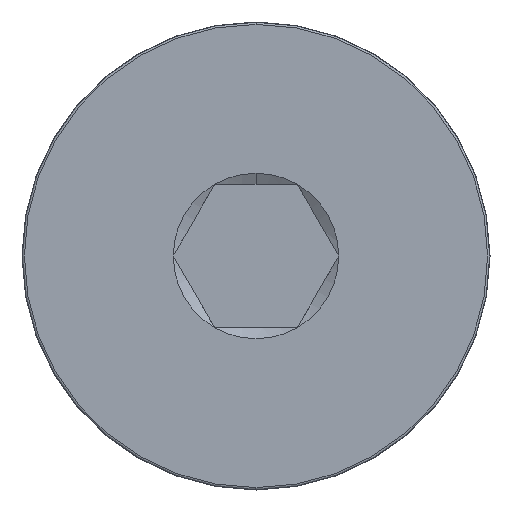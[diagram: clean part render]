
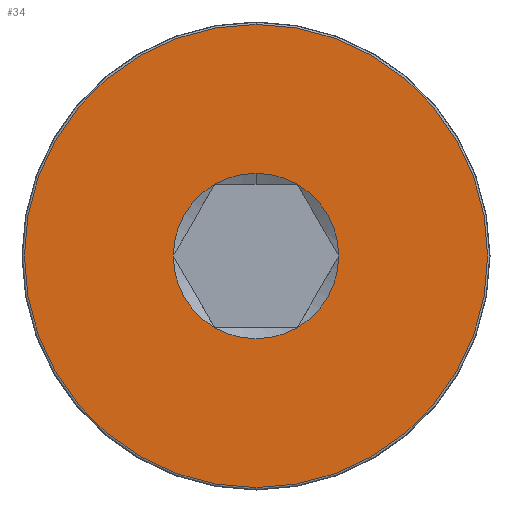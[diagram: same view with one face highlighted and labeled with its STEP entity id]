
A CAD part, left-side view. The second image highlights one B-rep face of the part: STEP entity #34.
In plain terms, the highlighted planar face has unit normal (-1, 0, 0).
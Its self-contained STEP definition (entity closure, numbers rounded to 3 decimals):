
#1 = CIRCLE ( 'NONE', #701, 1.732 ) ;
#8 = FACE_OUTER_BOUND ( 'NONE', #600, .T. ) ;
#20 = CIRCLE ( 'NONE', #119, 1.732 ) ;
#33 = ORIENTED_EDGE ( 'NONE', *, *, #755, .T. ) ;
#34 = ADVANCED_FACE ( 'NONE', ( #8, #128 ), #732, .T. ) ;
#46 = AXIS2_PLACEMENT_3D ( 'NONE', #270, #590, #658 ) ;
#47 = CARTESIAN_POINT ( 'NONE',  ( 0., 0., -4.85 ) ) ;
#52 = DIRECTION ( 'NONE',  ( 0., 0., -1. ) ) ;
#53 = DIRECTION ( 'NONE',  ( 1., 0., 0. ) ) ;
#55 = AXIS2_PLACEMENT_3D ( 'NONE', #446, #511, #260 ) ;
#73 = ORIENTED_EDGE ( 'NONE', *, *, #277, .T. ) ;
#74 = EDGE_CURVE ( 'NONE', #456, #327, #662, .T. ) ;
#76 = ORIENTED_EDGE ( 'NONE', *, *, #356, .T. ) ;
#77 = CARTESIAN_POINT ( 'NONE',  ( 0., 0.866, -1.5 ) ) ;
#93 = AXIS2_PLACEMENT_3D ( 'NONE', #291, #174, #242 ) ;
#99 = ORIENTED_EDGE ( 'NONE', *, *, #625, .T. ) ;
#102 = DIRECTION ( 'NONE',  ( 0., 0., -1. ) ) ;
#113 = EDGE_CURVE ( 'NONE', #149, #663, #416, .T. ) ;
#119 = AXIS2_PLACEMENT_3D ( 'NONE', #784, #471, #52 ) ;
#128 = FACE_BOUND ( 'NONE', #317, .T. ) ;
#149 = VERTEX_POINT ( 'NONE', #749 ) ;
#173 = CARTESIAN_POINT ( 'NONE',  ( 0., -0.866, 1.5 ) ) ;
#174 = DIRECTION ( 'NONE',  ( 1., 0., 0. ) ) ;
#178 = CARTESIAN_POINT ( 'NONE',  ( 0., 0., 0. ) ) ;
#236 = CARTESIAN_POINT ( 'NONE',  ( 0., 0., 0. ) ) ;
#238 = DIRECTION ( 'NONE',  ( -1., 0., 0. ) ) ;
#242 = DIRECTION ( 'NONE',  ( 0., 0., -1. ) ) ;
#254 = ORIENTED_EDGE ( 'NONE', *, *, #325, .T. ) ;
#260 = DIRECTION ( 'NONE',  ( 0., 0., -1. ) ) ;
#261 = CARTESIAN_POINT ( 'NONE',  ( 0., 0., 0. ) ) ;
#266 = ORIENTED_EDGE ( 'NONE', *, *, #113, .T. ) ;
#270 = CARTESIAN_POINT ( 'NONE',  ( 0., 0., 0. ) ) ;
#274 = DIRECTION ( 'NONE',  ( 1., 0., 0. ) ) ;
#277 = EDGE_CURVE ( 'NONE', #468, #558, #1, .T. ) ;
#281 = AXIS2_PLACEMENT_3D ( 'NONE', #236, #53, #617 ) ;
#283 = AXIS2_PLACEMENT_3D ( 'NONE', #178, #298, #437 ) ;
#289 = CARTESIAN_POINT ( 'NONE',  ( 0., 0., 0. ) ) ;
#291 = CARTESIAN_POINT ( 'NONE',  ( 0., 0., 0. ) ) ;
#297 = CARTESIAN_POINT ( 'NONE',  ( 0., 0., 4.85 ) ) ;
#298 = DIRECTION ( 'NONE',  ( -1., 0., 0. ) ) ;
#317 = EDGE_LOOP ( 'NONE', ( #99, #73, #33, #254, #76, #266, #715 ) ) ;
#325 = EDGE_CURVE ( 'NONE', #513, #389, #442, .T. ) ;
#327 = VERTEX_POINT ( 'NONE', #47 ) ;
#349 = CIRCLE ( 'NONE', #46, 1.732 ) ;
#356 = EDGE_CURVE ( 'NONE', #389, #149, #349, .T. ) ;
#360 = CIRCLE ( 'NONE', #414, 4.85 ) ;
#389 = VERTEX_POINT ( 'NONE', #781 ) ;
#396 = CARTESIAN_POINT ( 'NONE',  ( 0., 0., 0. ) ) ;
#414 = AXIS2_PLACEMENT_3D ( 'NONE', #670, #478, #661 ) ;
#416 = CIRCLE ( 'NONE', #93, 1.732 ) ;
#437 = DIRECTION ( 'NONE',  ( 0., 0., 1. ) ) ;
#442 = CIRCLE ( 'NONE', #650, 1.732 ) ;
#446 = CARTESIAN_POINT ( 'NONE',  ( 0., 0., 0. ) ) ;
#452 = VERTEX_POINT ( 'NONE', #538 ) ;
#456 = VERTEX_POINT ( 'NONE', #297 ) ;
#468 = VERTEX_POINT ( 'NONE', #485 ) ;
#471 = DIRECTION ( 'NONE',  ( 1., 0., 0. ) ) ;
#478 = DIRECTION ( 'NONE',  ( -1., 0., 0. ) ) ;
#485 = CARTESIAN_POINT ( 'NONE',  ( 0., 0.866, 1.5 ) ) ;
#493 = CIRCLE ( 'NONE', #281, 1.732 ) ;
#505 = EDGE_CURVE ( 'NONE', #663, #452, #493, .T. ) ;
#509 = DIRECTION ( 'NONE',  ( 1., 0., 0. ) ) ;
#511 = DIRECTION ( 'NONE',  ( 1., 0., 0. ) ) ;
#513 = VERTEX_POINT ( 'NONE', #173 ) ;
#538 = CARTESIAN_POINT ( 'NONE',  ( 0., 1.732, 0. ) ) ;
#543 = DIRECTION ( 'NONE',  ( 0., 0., 1. ) ) ;
#558 = VERTEX_POINT ( 'NONE', #735 ) ;
#576 = EDGE_CURVE ( 'NONE', #327, #456, #360, .T. ) ;
#588 = ORIENTED_EDGE ( 'NONE', *, *, #74, .T. ) ;
#590 = DIRECTION ( 'NONE',  ( 1., 0., 0. ) ) ;
#600 = EDGE_LOOP ( 'NONE', ( #588, #743 ) ) ;
#617 = DIRECTION ( 'NONE',  ( 0., 0., -1. ) ) ;
#621 = CIRCLE ( 'NONE', #55, 1.732 ) ;
#625 = EDGE_CURVE ( 'NONE', #452, #468, #621, .T. ) ;
#635 = AXIS2_PLACEMENT_3D ( 'NONE', #289, #238, #543 ) ;
#638 = DIRECTION ( 'NONE',  ( 0., 0., -1. ) ) ;
#650 = AXIS2_PLACEMENT_3D ( 'NONE', #396, #274, #102 ) ;
#658 = DIRECTION ( 'NONE',  ( 0., 0., -1. ) ) ;
#661 = DIRECTION ( 'NONE',  ( 0., 0., 1. ) ) ;
#662 = CIRCLE ( 'NONE', #283, 4.85 ) ;
#663 = VERTEX_POINT ( 'NONE', #77 ) ;
#670 = CARTESIAN_POINT ( 'NONE',  ( 0., 0., 0. ) ) ;
#701 = AXIS2_PLACEMENT_3D ( 'NONE', #261, #509, #638 ) ;
#715 = ORIENTED_EDGE ( 'NONE', *, *, #505, .T. ) ;
#732 = PLANE ( 'NONE',  #635 ) ;
#735 = CARTESIAN_POINT ( 'NONE',  ( 0., 0., 1.732 ) ) ;
#743 = ORIENTED_EDGE ( 'NONE', *, *, #576, .T. ) ;
#749 = CARTESIAN_POINT ( 'NONE',  ( 0., -0.866, -1.5 ) ) ;
#755 = EDGE_CURVE ( 'NONE', #558, #513, #20, .T. ) ;
#781 = CARTESIAN_POINT ( 'NONE',  ( 0., -1.732, 0. ) ) ;
#784 = CARTESIAN_POINT ( 'NONE',  ( 0., 0., 0. ) ) ;
